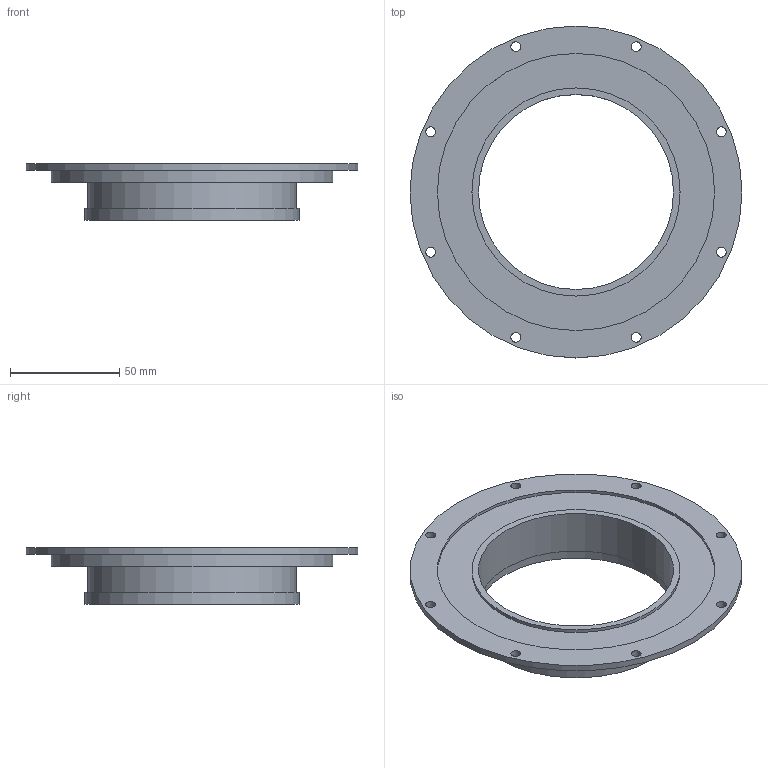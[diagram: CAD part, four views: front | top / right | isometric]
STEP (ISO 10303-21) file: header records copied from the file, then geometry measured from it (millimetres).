
FILE_DESCRIPTION(('Open CASCADE Model'),'2;1');
FILE_NAME('Open CASCADE Shape Model','2026-09-23T04:43:49',('Author'),( 'Open CASCADE'),'Open CASCADE STEP processor 7.9','Open CASCADE 7.9' ,'Unknown');
FILE_SCHEMA(('AUTOMOTIVE_DESIGN { 1 0 10303 214 1 1 1 1 }'));
Length unit declared in the file: millimetre
Products named in the file (1): Open CASCADE STEP translator 7.9 2
Bounding box: 152 x 152 x 26 mm (x, y, z)
Volume: 49543.7 mm3; surface area: 45836 mm2
Topology: 1 solids, 1 shells, 26 faces, 51 edges, 34 vertices
Faces by surface type: cylinder 17, plane 9
Full cylindrical faces by diameter (mm): 4.5 x8, 89.306 x1, 92 x1, 95.306 x2, 98 x1, 126.9 x2, 128.9 x1, 152 x1
Entity records: 1464 total; most frequent: CARTESIAN_POINT 346, DIRECTION 219, ORIENTED_EDGE 102, PCURVE 102, DEFINITIONAL_REPRESENTATION 102, LINE 85, VECTOR 85, AXIS2_PLACEMENT_3D 61
